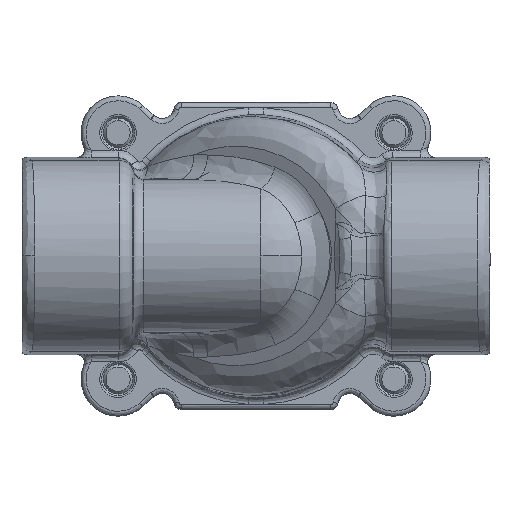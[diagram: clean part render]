
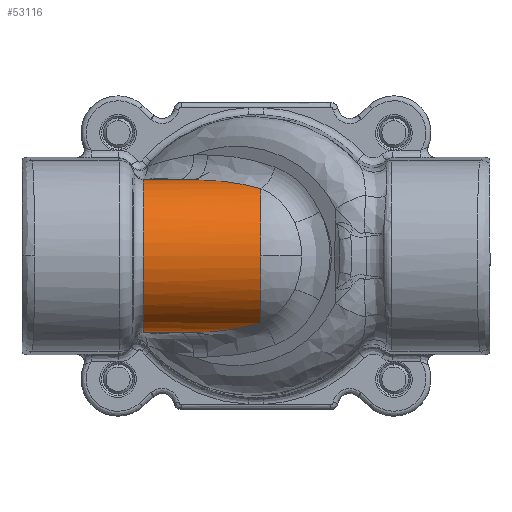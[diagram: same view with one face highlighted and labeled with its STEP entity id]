
A CAD part, front view. The second image highlights one B-rep face of the part: STEP entity #53116.
In plain terms, the highlighted cylindrical face has radius 15.5 mm (diameter 31 mm), a partial arc.
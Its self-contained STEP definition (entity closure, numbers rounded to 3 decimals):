
#3228 = AXIS2_PLACEMENT_3D ( 'NONE', #18832, #41325, #14500 ) ;
#3559 = DIRECTION ( 'NONE',  ( 0., 0., -1. ) ) ;
#3571 = AXIS2_PLACEMENT_3D ( 'NONE', #17893, #49442, #22426 ) ;
#7286 = VECTOR ( 'NONE', #23834, 1000. ) ;
#7741 = CARTESIAN_POINT ( 'NONE',  ( -22.888, -45., 15.5 ) ) ;
#8244 = CARTESIAN_POINT ( 'NONE',  ( -12.842, -45., -15.5 ) ) ;
#9979 = CARTESIAN_POINT ( 'NONE',  ( -12.842, -45., 15.5 ) ) ;
#10504 = CARTESIAN_POINT ( 'NONE',  ( -61.129, -45., 15.5 ) ) ;
#10794 = ORIENTED_EDGE ( 'NONE', *, *, #30294, .T. ) ;
#11892 = VERTEX_POINT ( 'NONE', #48869 ) ;
#13085 = ORIENTED_EDGE ( 'NONE', *, *, #58454, .T. ) ;
#13213 = CARTESIAN_POINT ( 'NONE',  ( -3.278, -50.063, -14.873 ) ) ;
#14294 = DIRECTION ( 'NONE',  ( -1., 0., 0. ) ) ;
#14350 = EDGE_CURVE ( 'NONE', #45053, #52122, #34802, .T. ) ;
#14500 = DIRECTION ( 'NONE',  ( 0., 0., 1. ) ) ;
#14678 = VERTEX_POINT ( 'NONE', #21816 ) ;
#16223 = CARTESIAN_POINT ( 'NONE',  ( 1., -52.328, -13.658 ) ) ;
#16704 =( BOUNDED_CURVE ( )  B_SPLINE_CURVE ( 3, ( #9979, #41529, #23552, #55156 ),
 .UNSPECIFIED., .F., .F. ) 
 B_SPLINE_CURVE_WITH_KNOTS ( ( 4, 4 ),
 ( 1.571, 2.063 ),
 .UNSPECIFIED. ) 
 CURVE ( )  GEOMETRIC_REPRESENTATION_ITEM ( )  RATIONAL_B_SPLINE_CURVE ( ( 1., 0.98, 0.98, 1. ) ) 
 REPRESENTATION_ITEM ( '' )  );
#16718 = LINE ( 'NONE', #22584, #28750 ) ;
#17377 = ORIENTED_EDGE ( 'NONE', *, *, #23066, .T. ) ;
#17438 = CARTESIAN_POINT ( 'NONE',  ( 1., -60.5, 0. ) ) ;
#17893 = CARTESIAN_POINT ( 'NONE',  ( 1., -45., 0. ) ) ;
#18308 = CARTESIAN_POINT ( 'NONE',  ( 1., -52.328, 13.658 ) ) ;
#18832 = CARTESIAN_POINT ( 'NONE',  ( -61.129, -45., 0. ) ) ;
#19299 = CARTESIAN_POINT ( 'NONE',  ( -61.129, -45., 15.5 ) ) ;
#19708 = CIRCLE ( 'NONE', #41103, 15.5 ) ;
#20032 = CARTESIAN_POINT ( 'NONE',  ( -61.129, -45., -15.5 ) ) ;
#20641 = ORIENTED_EDGE ( 'NONE', *, *, #37411, .T. ) ;
#21816 = CARTESIAN_POINT ( 'NONE',  ( -22.888, -45., -15.5 ) ) ;
#22260 = CARTESIAN_POINT ( 'NONE',  ( -12.842, -45., -15.5 ) ) ;
#22426 = DIRECTION ( 'NONE',  ( 0., 0., 1. ) ) ;
#22584 = CARTESIAN_POINT ( 'NONE',  ( -61.129, -45., -15.5 ) ) ;
#23066 = EDGE_CURVE ( 'NONE', #23102, #11892, #53566, .T. ) ;
#23102 = VERTEX_POINT ( 'NONE', #46936 ) ;
#23552 = CARTESIAN_POINT ( 'NONE',  ( -3.278, -50.063, 14.873 ) ) ;
#23561 = VERTEX_POINT ( 'NONE', #18308 ) ;
#23834 = DIRECTION ( 'NONE',  ( -1., 0., 0. ) ) ;
#24608 = DIRECTION ( 'NONE',  ( 1., 0., 0. ) ) ;
#24931 = EDGE_CURVE ( 'NONE', #14678, #34436, #41203, .T. ) ;
#25794 = EDGE_CURVE ( 'NONE', #23102, #23561, #16704, .T. ) ;
#27171 = DIRECTION ( 'NONE',  ( 1., 0., 0. ) ) ;
#27459 = VERTEX_POINT ( 'NONE', #17438 ) ;
#28715 = EDGE_CURVE ( 'NONE', #27459, #23561, #19708, .T. ) ;
#28750 = VECTOR ( 'NONE', #27171, 1000. ) ;
#29198 = ORIENTED_EDGE ( 'NONE', *, *, #14350, .F. ) ;
#29587 = VECTOR ( 'NONE', #46148, 1000. ) ;
#30294 = EDGE_CURVE ( 'NONE', #14678, #44986, #37436, .T. ) ;
#30602 = DIRECTION ( 'NONE',  ( -1., 0., 0. ) ) ;
#31261 = LINE ( 'NONE', #19299, #7286 ) ;
#32904 = ORIENTED_EDGE ( 'NONE', *, *, #25794, .F. ) ;
#33672 = AXIS2_PLACEMENT_3D ( 'NONE', #57628, #30602, #3559 ) ;
#34436 = VERTEX_POINT ( 'NONE', #7741 ) ;
#34802 =( BOUNDED_CURVE ( )  B_SPLINE_CURVE ( 3, ( #44738, #13213, #49274, #22260 ),
 .UNSPECIFIED., .F., .T. ) 
 B_SPLINE_CURVE_WITH_KNOTS ( ( 4, 4 ),
 ( 4.22, 4.712 ),
 .UNSPECIFIED. ) 
 CURVE ( )  GEOMETRIC_REPRESENTATION_ITEM ( )  RATIONAL_B_SPLINE_CURVE ( ( 1., 0.98, 0.98, 1. ) ) 
 REPRESENTATION_ITEM ( '' )  );
#35690 = CYLINDRICAL_SURFACE ( 'NONE', #3228, 15.5 ) ;
#37411 = EDGE_CURVE ( 'NONE', #44986, #52122, #16718, .T. ) ;
#37436 = LINE ( 'NONE', #20032, #48803 ) ;
#37568 = CIRCLE ( 'NONE', #3571, 15.5 ) ;
#38108 = EDGE_LOOP ( 'NONE', ( #10794, #20641, #29198, #13085, #57605, #32904, #17377, #39445, #49323 ) ) ;
#39445 = ORIENTED_EDGE ( 'NONE', *, *, #49858, .T. ) ;
#41103 = AXIS2_PLACEMENT_3D ( 'NONE', #41315, #14294, #45815 ) ;
#41203 = CIRCLE ( 'NONE', #33672, 15.5 ) ;
#41315 = CARTESIAN_POINT ( 'NONE',  ( 1., -45., 0. ) ) ;
#41325 = DIRECTION ( 'NONE',  ( -1., 0., 0. ) ) ;
#41529 = CARTESIAN_POINT ( 'NONE',  ( -7.987, -47.57, 15.5 ) ) ;
#44738 = CARTESIAN_POINT ( 'NONE',  ( 1., -52.328, -13.658 ) ) ;
#44986 = VERTEX_POINT ( 'NONE', #46578 ) ;
#45053 = VERTEX_POINT ( 'NONE', #16223 ) ;
#45815 = DIRECTION ( 'NONE',  ( 0., 0., 1. ) ) ;
#46148 = DIRECTION ( 'NONE',  ( -1., 0., 0. ) ) ;
#46578 = CARTESIAN_POINT ( 'NONE',  ( -22.888, -45., -15.5 ) ) ;
#46936 = CARTESIAN_POINT ( 'NONE',  ( -12.842, -45., 15.5 ) ) ;
#48803 = VECTOR ( 'NONE', #24608, 1000. ) ;
#48869 = CARTESIAN_POINT ( 'NONE',  ( -22.888, -45., 15.5 ) ) ;
#49274 = CARTESIAN_POINT ( 'NONE',  ( -7.987, -47.57, -15.5 ) ) ;
#49323 = ORIENTED_EDGE ( 'NONE', *, *, #24931, .F. ) ;
#49442 = DIRECTION ( 'NONE',  ( -1., 0., 0. ) ) ;
#49858 = EDGE_CURVE ( 'NONE', #11892, #34436, #31261, .T. ) ;
#51983 = FACE_OUTER_BOUND ( 'NONE', #38108, .T. ) ;
#52122 = VERTEX_POINT ( 'NONE', #8244 ) ;
#53116 = ADVANCED_FACE ( 'NONE', ( #51983 ), #35690, .T. ) ;
#53566 = LINE ( 'NONE', #10504, #29587 ) ;
#55156 = CARTESIAN_POINT ( 'NONE',  ( 1., -52.328, 13.658 ) ) ;
#57605 = ORIENTED_EDGE ( 'NONE', *, *, #28715, .T. ) ;
#57628 = CARTESIAN_POINT ( 'NONE',  ( -22.888, -45., 0. ) ) ;
#58454 = EDGE_CURVE ( 'NONE', #45053, #27459, #37568, .T. ) ;
